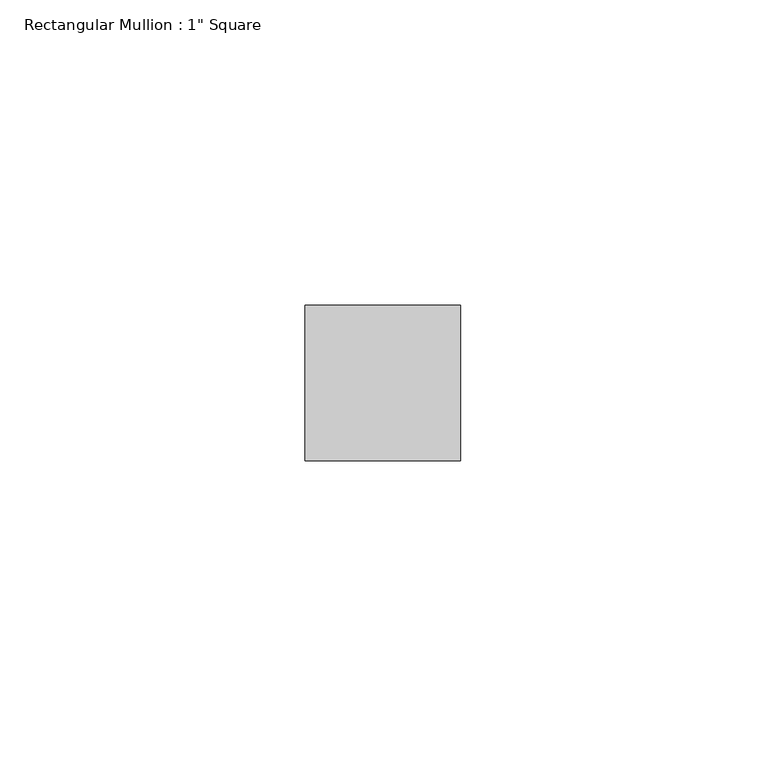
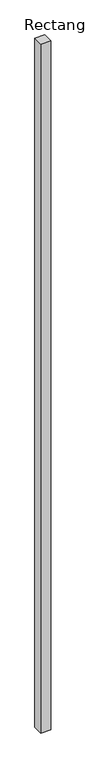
"""IFC4 building model written with IfcOpenShell, lengths in millimetres: member geometry."""

from ifc_helpers import new_model, si_unit, frame, origin, place, context, project, spatial, polyline, outline, extrude, source, transform, mapped, element, save


def member_c8b9029b(model_context):
    return source(origin(), model_context, "Body", "SweptSolid", [
        extrude(outline(polyline([(0.0, 12.7), (0.0, -12.7), (-25.4, -12.7), (-25.4, 12.7), (0.0, 12.7)])), frame((0.0, 0.0, -1840.8013754), z_axis=(0.0, 0.0, 1.0), x_axis=(1.0, 0.0, 0.0)), (0.0, 0.0, 1.0), 1840.8013754),
    ])


if __name__ == "__main__":
    model = new_model("IFC4")
    model_context = context("Model", 3, world=origin())
    ifc_project = project(units=[si_unit("LENGTHUNIT", "METRE", prefix="MILLI")], contexts=[model_context])
    site = spatial("IfcSite", under=ifc_project)
    building = spatial("IfcBuilding", under=site)
    placement = place(None, origin())
    member_shape = member_c8b9029b(model_context)
    element("IfcMember", 1, ObjectType="Rectangular Mullion : 1\" Square", at=placement, inside=building, context=model_context, shape_type="MappedRepresentation", body=[
        mapped(member_shape, transform((0.0, 0.0, 0.0), x_axis=(1.0, 0.0, 0.0), y_axis=(0.0, 1.0, 0.0), z_axis=(0.0, 0.0, 1.0))),
    ])
    save(model, "model.ifc")
